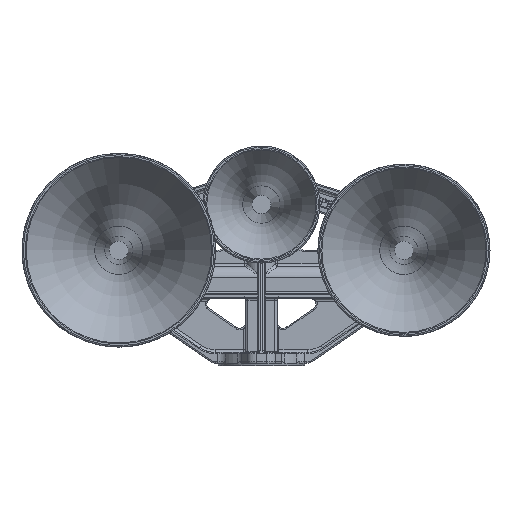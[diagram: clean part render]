
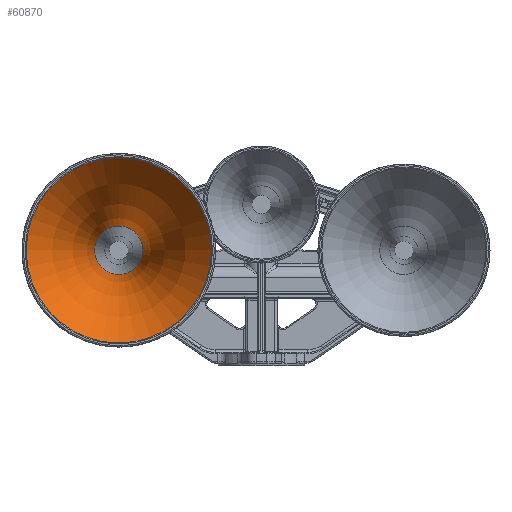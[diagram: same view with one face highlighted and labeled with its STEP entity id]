
A CAD part, front view. The second image highlights one B-rep face of the part: STEP entity #60870.
In plain terms, the highlighted toroidal (fillet/blend) face has major radius 328.615 mm and minor radius 301.625 mm.
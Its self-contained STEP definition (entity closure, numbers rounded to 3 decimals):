
#5125=TOROIDAL_SURFACE('',#66633,328.615,301.625);
#9758=FACE_OUTER_BOUND('',#13558,.T.);
#13558=EDGE_LOOP('',(#56429,#56430,#56431,#56432));
#23674=CIRCLE('',#66476,109.429);
#23761=CIRCLE('',#66631,28.575);
#23763=CIRCLE('',#66634,301.625);
#29270=VERTEX_POINT('',#137876);
#29371=VERTEX_POINT('',#139309);
#38205=EDGE_CURVE('',#29270,#29270,#23674,.T.);
#38401=EDGE_CURVE('',#29371,#29371,#23761,.T.);
#38403=EDGE_CURVE('',#29270,#29371,#23763,.T.);
#56429=ORIENTED_EDGE('',*,*,#38205,.F.);
#56430=ORIENTED_EDGE('',*,*,#38403,.T.);
#56431=ORIENTED_EDGE('',*,*,#38401,.T.);
#56432=ORIENTED_EDGE('',*,*,#38403,.F.);
#60870=ADVANCED_FACE('',(#9758),#5125,.T.);
#66476=AXIS2_PLACEMENT_3D('',#137878,#81048,#81049);
#66631=AXIS2_PLACEMENT_3D('',#139310,#81416,#81417);
#66633=AXIS2_PLACEMENT_3D('',#139312,#81420,#81421);
#66634=AXIS2_PLACEMENT_3D('',#139313,#81422,#81423);
#81048=DIRECTION('center_axis',(0.,1.,0.));
#81049=DIRECTION('ref_axis',(0.,0.,-1.));
#81416=DIRECTION('center_axis',(0.,1.,0.));
#81417=DIRECTION('ref_axis',(1.,0.,0.));
#81420=DIRECTION('center_axis',(0.,1.,0.));
#81421=DIRECTION('ref_axis',(0.,0.,1.));
#81422=DIRECTION('center_axis',(-1.,0.,0.));
#81423=DIRECTION('ref_axis',(0.,0.,-1.));
#137876=CARTESIAN_POINT('',(0.,-468.609,-109.429));
#137878=CARTESIAN_POINT('Origin',(0.,-468.609,0.));
#139309=CARTESIAN_POINT('',(0.,-292.28,-28.575));
#139310=CARTESIAN_POINT('Origin',(0.,-292.28,0.));
#139312=CARTESIAN_POINT('Origin',(0.,-261.401,0.));
#139313=CARTESIAN_POINT('Origin',(0.,-261.401,
-328.615));
